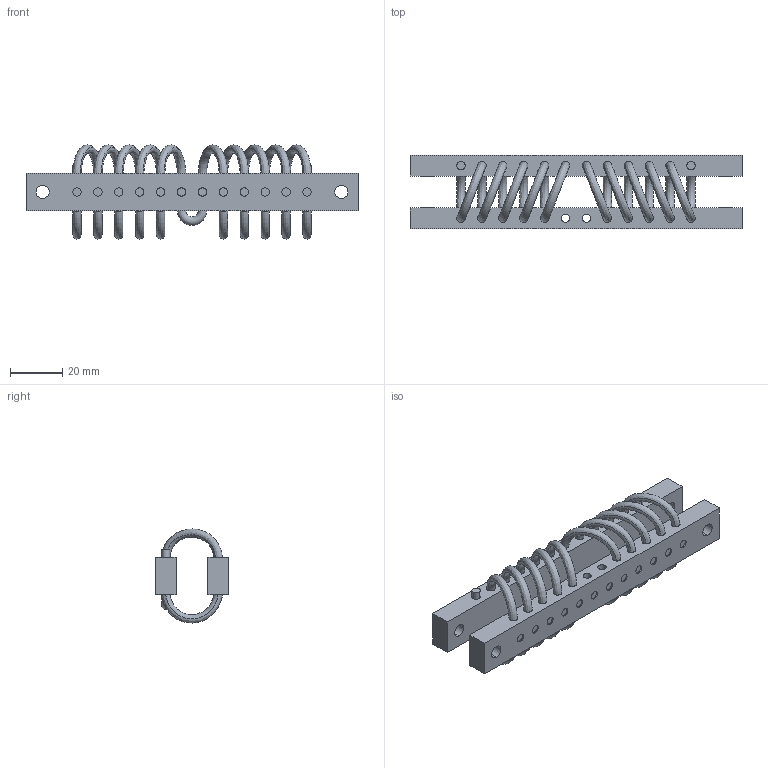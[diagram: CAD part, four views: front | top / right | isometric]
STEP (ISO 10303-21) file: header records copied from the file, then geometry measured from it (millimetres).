
FILE_DESCRIPTION (( 'STEP AP214' ), '1' );
FILE_NAME ('WR4-100-10DM.STEP', '2018-12-07T09:49:24', ( 'user' ), ( 'Microsoft' ), 'SwSTEP 2.0', 'SolidWorks 2016', '' );
FILE_SCHEMA (( 'AUTOMOTIVE_DESIGN' ));
Length unit declared in the file: millimetre
Products named in the file (1): WR4-100-10DM
Bounding box: 127 x 28 x 35.99 mm (x, y, z)
Volume: 32819.4 mm3; surface area: 25125.9 mm2
Topology: 25 solids, 25 shells, 316 faces, 702 edges, 460 vertices
Faces by surface type: cylinder 192, plane 82, bspline 40, torus 2
Entity records: 20570 total; most frequent: CARTESIAN_POINT 13299, ORIENTED_EDGE 1404, DIRECTION 1382, EDGE_CURVE 702, AXIS2_PLACEMENT_3D 583, VERTEX_POINT 460, EDGE_LOOP 396, ADVANCED_FACE 316
